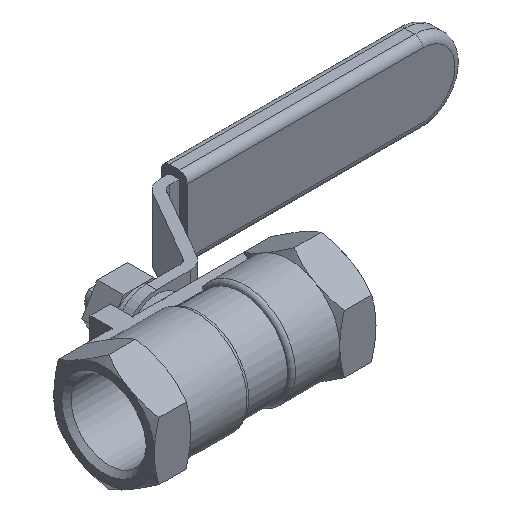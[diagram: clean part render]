
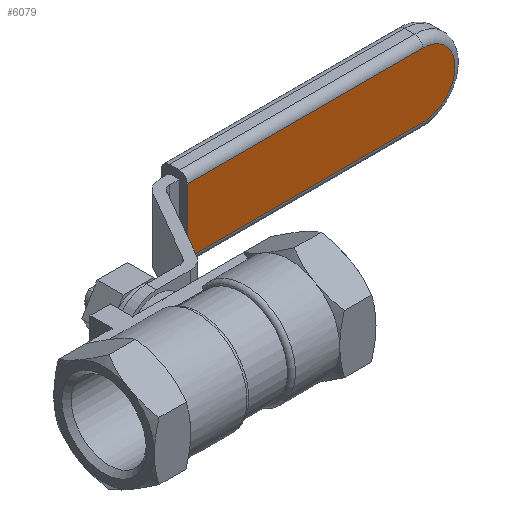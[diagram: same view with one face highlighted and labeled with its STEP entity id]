
A CAD part, isometric view. The second image highlights one B-rep face of the part: STEP entity #6079.
In plain terms, the highlighted planar face has unit normal (0, -1, 0).
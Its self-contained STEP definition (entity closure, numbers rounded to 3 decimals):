
#349=PLANE('',#6495);
#632=FACE_OUTER_BOUND('',#980,.T.);
#980=EDGE_LOOP('',(#5023,#5024,#5025,#5026));
#1585=LINE('',#9540,#2198);
#1588=LINE('',#9555,#2201);
#1598=LINE('',#9587,#2211);
#2198=VECTOR('',#7707,10.);
#2201=VECTOR('',#7724,10.);
#2211=VECTOR('',#7762,10.);
#2380=CIRCLE('',#6478,8.);
#2845=VERTEX_POINT('',#9537);
#2846=VERTEX_POINT('',#9539);
#2848=VERTEX_POINT('',#9545);
#2850=VERTEX_POINT('',#9551);
#3578=EDGE_CURVE('',#2845,#2846,#1585,.T.);
#3583=EDGE_CURVE('',#2846,#2848,#2380,.T.);
#3586=EDGE_CURVE('',#2848,#2850,#1588,.T.);
#3602=EDGE_CURVE('',#2845,#2850,#1598,.T.);
#5023=ORIENTED_EDGE('',*,*,#3578,.F.);
#5024=ORIENTED_EDGE('',*,*,#3602,.T.);
#5025=ORIENTED_EDGE('',*,*,#3586,.F.);
#5026=ORIENTED_EDGE('',*,*,#3583,.F.);
#6079=ADVANCED_FACE('',(#632),#349,.T.);
#6478=AXIS2_PLACEMENT_3D('',#9549,#7717,#7718);
#6495=AXIS2_PLACEMENT_3D('',#9593,#7766,#7767);
#7707=DIRECTION('',(1.,0.,0.));
#7717=DIRECTION('center_axis',(0.,1.,0.));
#7718=DIRECTION('ref_axis',(1.,0.,0.));
#7724=DIRECTION('',(-1.,0.,0.));
#7762=DIRECTION('',(0.,0.,-1.));
#7766=DIRECTION('center_axis',(0.,-1.,0.));
#7767=DIRECTION('ref_axis',(-1.,0.,0.));
#9537=CARTESIAN_POINT('',(-6.221,19.835,8.));
#9539=CARTESIAN_POINT('',(52.212,19.835,8.));
#9540=CARTESIAN_POINT('',(-6.221,19.835,8.));
#9545=CARTESIAN_POINT('',(52.212,19.835,-8.));
#9549=CARTESIAN_POINT('Origin',(52.212,19.835,0.));
#9551=CARTESIAN_POINT('',(-6.221,19.835,-8.));
#9555=CARTESIAN_POINT('',(-6.221,19.835,-8.));
#9587=CARTESIAN_POINT('',(-6.221,19.835,10.));
#9593=CARTESIAN_POINT('Origin',(-6.221,19.835,-10.));
